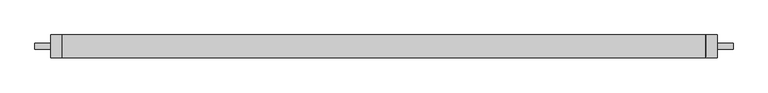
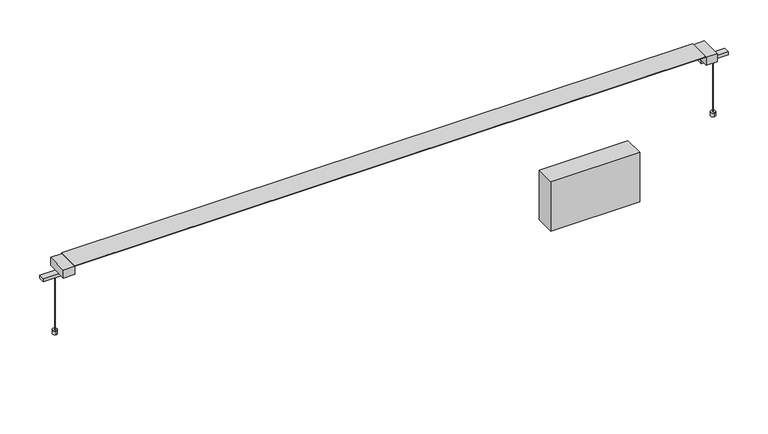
"""IFC4 building model written with IfcOpenShell, lengths in millimetres: light fixture geometry, Fabbian.Pivot F39 (F39 A01A 01,F39 A01A 21,F39 A01A 76,F39 A02A 01,F39 A02A 21,F39 A02A 76) : F39 A01A 01."""

from ifc_helpers import new_model, si_unit, point, frame, frame_2d, origin, origin_with_axes, place, context, project, spatial, polyline, circle_curve, trimmed, segment, composite_curve, outline, extrude, source, transform, mapped, element, save


def light_fixture_3a0b2da0(model_context):
    return source(origin(), model_context, "Body", "SweptSolid", [
        extrude(outline(composite_curve([segment(trimmed(circle_curve(frame_2d((815.8132834, 0.0)), 0.4949808), [point((816.3082642, 0.0))], [point((815.3183026, 0.0))], False, "CARTESIAN"), True, "CONTINUOUS"), segment(trimmed(circle_curve(frame_2d((815.8132834, 0.0)), 0.4949808), [point((815.3183026, 0.0))], [point((816.3082642, 0.0))], False, "CARTESIAN"), True, "CONTINUOUS")], self_intersect=False)), origin_with_axes(), (0.0, 0.0, 1.0), 151.6242394),
        extrude(outline(composite_curve([segment(trimmed(circle_curve(frame_2d((-815.8132834, 0.0)), 0.4949808), [point((-816.3082642, 0.0))], [point((-815.3183026, 0.0))], False, "CARTESIAN"), True, "CONTINUOUS"), segment(trimmed(circle_curve(frame_2d((-815.8132834, 0.0)), 0.4949808), [point((-815.3183026, 0.0))], [point((-816.3082642, 0.0))], False, "CARTESIAN"), True, "CONTINUOUS")], self_intersect=False)), origin_with_axes(), (0.0, 0.0, 1.0), 151.6242394),
        extrude(outline(polyline([(619.1350388, -24.9666442), (399.1348055, -24.9666442), (399.1348055, 25.0334567), (619.1350388, 25.0334567), (619.1350388, -24.9666442)])), frame((0.0, 0.0, -142.875), z_axis=(0.0, 0.0, 1.0), x_axis=(1.0, 0.0, 0.0)), (0.0, 0.0, 1.0), 130.175),
        extrude(outline(polyline([(0.4107254, 159.893756), (0.4107254, 160.681594), (-0.4107259, 160.681594), (-0.4107259, 159.893756), (-25.5497693, 181.0787506), (26.3879175, 181.0787506), (0.4107254, 159.893756)])), frame((-782.3132834, 0.0, 0.0), z_axis=(1.0, 0.0, 0.0), x_axis=(0.0, 1.0, 0.0)), (0.0, 0.0, 1.0), 1564.6265668),
        extrude(outline(polyline([(-782.3132834, -27.7285043), (-810.5140956, -27.7285043), (-810.5140956, 27.7953166), (-782.3132834, 27.7953166), (-782.3132834, -27.7285043)])), frame((0.0, 0.0, 159.6242394), z_axis=(0.0, 0.0, 1.0), x_axis=(1.0, 0.0, 0.0)), (0.0, 0.0, 1.0), 20.8761838),
        extrude(outline(polyline([(782.3132834, -27.7285042), (782.3132834, 27.7953167), (810.5140956, 27.7953167), (810.5140956, -27.7285042), (782.3132834, -27.7285042)])), frame((0.0, 0.0, 159.6242394), z_axis=(0.0, 0.0, 1.0), x_axis=(1.0, 0.0, 0.0)), (0.0, 0.0, 1.0), 20.8761838),
        extrude(outline(polyline([(0.0, 0.8214513), (1564.6265668, 0.8214513), (1564.6265668, 0.0), (0.0, 0.0), (0.0, 0.8214513)])), frame((-782.3132834, -0.4107259, 159.893756), z_axis=(-5.7155291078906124e-11, 0.0, 1.0), x_axis=(1.0, 0.0, 5.7155291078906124e-11)), (0.0, 0.0, 1.0), 0.787838),
        extrude(outline(polyline([(781.7488887, 27.7780006), (781.7488887, -27.7779986), (-782.3132834, -27.7779986), (-782.3132834, 27.7780006), (781.7488887, 27.7780006)])), frame((0.0, 0.0, 181.0787506), z_axis=(0.0, 0.0, 1.0), x_axis=(1.0, 0.0, 0.0)), (0.0, 0.0, 1.0), 1.1514277),
        extrude(outline(composite_curve([segment(trimmed(circle_curve(frame_2d((815.8133121, 0.4556113)), 5.8155806), [point((816.6410047, -5.3007681))], [point((814.9856195, 6.2119906))], False, "CARTESIAN"), True, "CONTINUOUS"), segment(trimmed(circle_curve(frame_2d((815.8133121, 0.4556113)), 5.8155806), [point((814.9856195, 6.2119906))], [point((816.6410047, -5.3007681))], False, "CARTESIAN"), True, "CONTINUOUS")], self_intersect=False)), origin_with_axes(), (0.0, 0.0, 1.0), 9.6582083),
        extrude(outline(composite_curve([segment(trimmed(circle_curve(frame_2d((-815.8133121, 0.4556113)), 5.8155806), [point((-816.6410047, -5.3007681))], [point((-814.9856195, 6.2119906))], False, "CARTESIAN"), True, "CONTINUOUS"), segment(trimmed(circle_curve(frame_2d((-815.8133121, 0.4556113)), 5.8155806), [point((-814.9856195, 6.2119906))], [point((-816.6410047, -5.3007681))], False, "CARTESIAN"), True, "CONTINUOUS")], self_intersect=False)), origin_with_axes(), (0.0, 0.0, 1.0), 9.6582083),
        extrude(outline(polyline([(849.3132834, 7.5334062), (849.3132834, -7.4665938), (782.3132834, -7.4665938), (782.3132834, 7.5334062), (849.3132834, 7.5334062)])), frame((0.0, 0.0, 151.6242394), z_axis=(0.0, 0.0, 1.0), x_axis=(1.0, 0.0, 0.0)), (0.0, 0.0, 1.0), 8.0),
        extrude(outline(polyline([(-782.3132834, 7.5334062), (-782.3132834, -7.4665938), (-849.3132834, -7.4665938), (-849.3132834, 7.5334062), (-782.3132834, 7.5334062)])), frame((0.0, 0.0, 151.6242394), z_axis=(0.0, 0.0, 1.0), x_axis=(1.0, 0.0, 0.0)), (0.0, 0.0, 1.0), 8.0),
    ])


if __name__ == "__main__":
    model = new_model("IFC4")
    model_context = context("Model", 3, world=origin())
    ifc_project = project(units=[si_unit("LENGTHUNIT", "METRE", prefix="MILLI")], contexts=[model_context])
    site = spatial("IfcSite", under=ifc_project)
    building = spatial("IfcBuilding", under=site)
    placement = place(None, origin())
    light_fixture_shape = light_fixture_3a0b2da0(model_context)
    element("IfcLightFixture", 1, ObjectType="Fabbian.Pivot F39 (F39 A01A 01,F39 A01A 21,F39 A01A 76,F39 A02A 01,F39 A02A 21,F39 A02A 76) : F39 A01A 01", at=placement, inside=building, context=model_context, shape_type="MappedRepresentation", body=[
        mapped(light_fixture_shape, transform((0.0, 0.0, 0.0), x_axis=(1.0, 0.0, 0.0), y_axis=(0.0, 1.0, 0.0), z_axis=(0.0, 0.0, 1.0))),
    ])
    save(model, "model.ifc")
